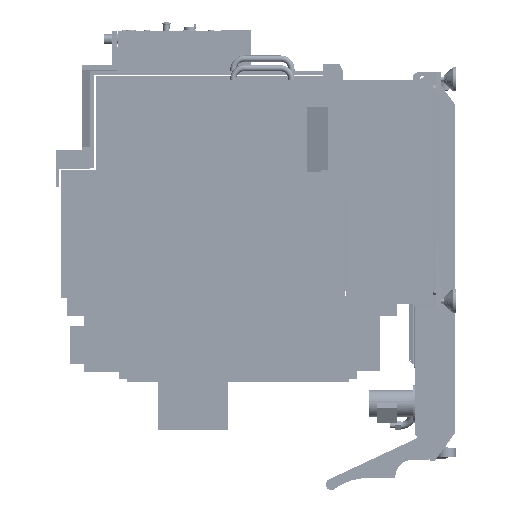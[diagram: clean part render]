
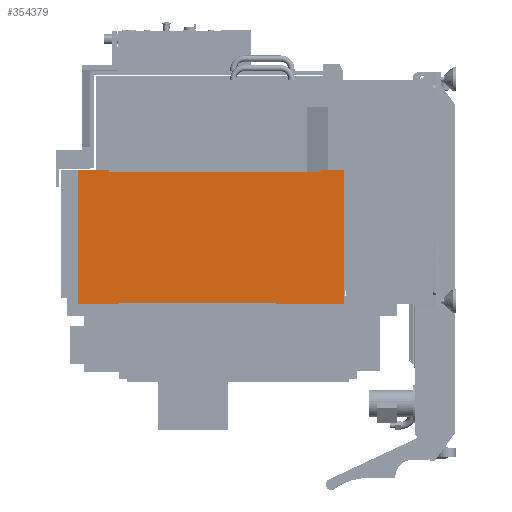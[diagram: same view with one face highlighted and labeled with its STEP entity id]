
A CAD part, left-side view. The second image highlights one B-rep face of the part: STEP entity #354379.
In plain terms, the highlighted planar face has unit normal (-1, 0, 0).
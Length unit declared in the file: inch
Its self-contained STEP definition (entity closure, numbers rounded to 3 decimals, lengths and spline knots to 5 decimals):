
#1688 = VECTOR ( 'NONE', #241285, 39.37008 ) ;
#1892 = CARTESIAN_POINT ( 'NONE',  ( -43.52964, 31.39127, -6.56243 ) ) ;
#7267 = CARTESIAN_POINT ( 'NONE',  ( -43.52964, 31.39127, -6.31707 ) ) ;
#8776 = CARTESIAN_POINT ( 'NONE',  ( -43.52964, 23.67831, -33.2571 ) ) ;
#10402 = ORIENTED_EDGE ( 'NONE', *, *, #301048, .F. ) ;
#16199 = EDGE_CURVE ( 'NONE', #225186, #35537, #307318, .T. ) ;
#21603 = CARTESIAN_POINT ( 'NONE',  ( -43.52964, -16.26878, -6.31707 ) ) ;
#26280 = EDGE_CURVE ( 'NONE', #290392, #322263, #298559, .T. ) ;
#33755 = ORIENTED_EDGE ( 'NONE', *, *, #16199, .T. ) ;
#34609 = VERTEX_POINT ( 'NONE', #401856 ) ;
#35537 = VERTEX_POINT ( 'NONE', #428219 ) ;
#38012 = CARTESIAN_POINT ( 'NONE',  ( -43.52964, 29.2254, -33.49602 ) ) ;
#45585 = VERTEX_POINT ( 'NONE', #1892 ) ;
#64214 = LINE ( 'NONE', #393886, #331404 ) ;
#72456 = CARTESIAN_POINT ( 'NONE',  ( -43.52964, -11.67459, -6.31707 ) ) ;
#72568 = VECTOR ( 'NONE', #154414, 39.37008 ) ;
#78003 = DIRECTION ( 'NONE',  ( 0., 0., 1. ) ) ;
#84188 = CARTESIAN_POINT ( 'NONE',  ( -43.52964, 37.6685, -6.31707 ) ) ;
#84958 = LINE ( 'NONE', #8776, #87952 ) ;
#87952 = VECTOR ( 'NONE', #342774, 39.37008 ) ;
#96211 = CARTESIAN_POINT ( 'NONE',  ( -43.52964, -16.26878, -33.325 ) ) ;
#100604 = VERTEX_POINT ( 'NONE', #428740 ) ;
#101273 = EDGE_LOOP ( 'NONE', ( #332365, #334436, #207612, #347724, #10402, #33755, #281677, #217793, #254346, #200921, #165679, #361491 ) ) ;
#112114 = LINE ( 'NONE', #248315, #415222 ) ;
#114388 = CARTESIAN_POINT ( 'NONE',  ( -43.52964, 0., 0. ) ) ;
#119312 = CARTESIAN_POINT ( 'NONE',  ( -43.52964, 37.6685, -7.65973 ) ) ;
#119543 = AXIS2_PLACEMENT_3D ( 'NONE', #114388, #248420, #204621 ) ;
#121762 = EDGE_CURVE ( 'NONE', #100604, #346526, #381782, .T. ) ;
#139693 = EDGE_CURVE ( 'NONE', #35537, #268143, #64214, .T. ) ;
#152283 = DIRECTION ( 'NONE',  ( 0., 1., 0. ) ) ;
#154414 = DIRECTION ( 'NONE',  ( 0., 0., -1. ) ) ;
#165679 = ORIENTED_EDGE ( 'NONE', *, *, #178992, .T. ) ;
#172196 = VECTOR ( 'NONE', #322370, 39.37008 ) ;
#175400 = LINE ( 'NONE', #410472, #291802 ) ;
#178992 = EDGE_CURVE ( 'NONE', #187089, #346278, #183105, .T. ) ;
#183105 = LINE ( 'NONE', #84188, #414623 ) ;
#187089 = VERTEX_POINT ( 'NONE', #21603 ) ;
#188278 = CARTESIAN_POINT ( 'NONE',  ( -43.52964, -16.26878, -33.325 ) ) ;
#193854 = DIRECTION ( 'NONE',  ( 0., -1., 0. ) ) ;
#196675 = VECTOR ( 'NONE', #312344, 39.37008 ) ;
#200921 = ORIENTED_EDGE ( 'NONE', *, *, #341382, .T. ) ;
#204621 = DIRECTION ( 'NONE',  ( 0., 0., 1. ) ) ;
#207612 = ORIENTED_EDGE ( 'NONE', *, *, #26280, .T. ) ;
#208824 = DIRECTION ( 'NONE',  ( 0., 0., -1. ) ) ;
#212047 = LINE ( 'NONE', #381203, #351782 ) ;
#217044 = DIRECTION ( 'NONE',  ( 0., 0., 1. ) ) ;
#217793 = ORIENTED_EDGE ( 'NONE', *, *, #264640, .T. ) ;
#225186 = VERTEX_POINT ( 'NONE', #38012 ) ;
#239120 = CARTESIAN_POINT ( 'NONE',  ( -43.52964, 37.6685, -6.31707 ) ) ;
#241285 = DIRECTION ( 'NONE',  ( 0., 1., 0. ) ) ;
#246652 = DIRECTION ( 'NONE',  ( 0., 1., 0. ) ) ;
#248315 = CARTESIAN_POINT ( 'NONE',  ( -43.52964, -11.67461, -21.45257 ) ) ;
#248420 = DIRECTION ( 'NONE',  ( -1., 0., 0. ) ) ;
#250972 = VECTOR ( 'NONE', #246652, 39.37008 ) ;
#254346 = ORIENTED_EDGE ( 'NONE', *, *, #121762, .T. ) ;
#259812 = CARTESIAN_POINT ( 'NONE',  ( -43.52964, 37.6685, -6.31707 ) ) ;
#264640 = EDGE_CURVE ( 'NONE', #268143, #100604, #84958, .T. ) ;
#268143 = VERTEX_POINT ( 'NONE', #280068 ) ;
#279634 = CARTESIAN_POINT ( 'NONE',  ( -43.52964, 28.06139, -33.49602 ) ) ;
#280068 = CARTESIAN_POINT ( 'NONE',  ( -43.52964, 23.67831, -33.2571 ) ) ;
#281677 = ORIENTED_EDGE ( 'NONE', *, *, #139693, .T. ) ;
#285548 = CARTESIAN_POINT ( 'NONE',  ( -43.52964, 37.6685, -33.49602 ) ) ;
#286902 = EDGE_CURVE ( 'NONE', #45585, #34609, #310213, .T. ) ;
#290392 = VERTEX_POINT ( 'NONE', #7267 ) ;
#291802 = VECTOR ( 'NONE', #309480, 39.37008 ) ;
#294515 = VERTEX_POINT ( 'NONE', #285548 ) ;
#298559 = LINE ( 'NONE', #239120, #1688 ) ;
#301048 = EDGE_CURVE ( 'NONE', #225186, #294515, #347718, .T. ) ;
#307318 = LINE ( 'NONE', #379693, #327065 ) ;
#309480 = DIRECTION ( 'NONE',  ( 0., 0., 1. ) ) ;
#310213 = LINE ( 'NONE', #411187, #196675 ) ;
#312344 = DIRECTION ( 'NONE',  ( 0., -1., 0. ) ) ;
#314372 = FACE_OUTER_BOUND ( 'NONE', #101273, .T. ) ;
#322263 = VERTEX_POINT ( 'NONE', #259812 ) ;
#322370 = DIRECTION ( 'NONE',  ( 0., -1., -0.001 ) ) ;
#327065 = VECTOR ( 'NONE', #217044, 39.37008 ) ;
#328562 = EDGE_CURVE ( 'NONE', #346278, #34609, #112114, .T. ) ;
#331404 = VECTOR ( 'NONE', #193854, 39.37008 ) ;
#332365 = ORIENTED_EDGE ( 'NONE', *, *, #286902, .F. ) ;
#334436 = ORIENTED_EDGE ( 'NONE', *, *, #379314, .T. ) ;
#341382 = EDGE_CURVE ( 'NONE', #346526, #187089, #175400, .T. ) ;
#342774 = DIRECTION ( 'NONE',  ( 0., 0., -1. ) ) ;
#346278 = VERTEX_POINT ( 'NONE', #72456 ) ;
#346526 = VERTEX_POINT ( 'NONE', #96211 ) ;
#347718 = LINE ( 'NONE', #279634, #250972 ) ;
#347724 = ORIENTED_EDGE ( 'NONE', *, *, #388672, .T. ) ;
#351782 = VECTOR ( 'NONE', #78003, 39.37008 ) ;
#354379 = ADVANCED_FACE ( 'NONE', ( #314372 ), #415363, .T. ) ;
#361491 = ORIENTED_EDGE ( 'NONE', *, *, #328562, .T. ) ;
#379314 = EDGE_CURVE ( 'NONE', #45585, #290392, #212047, .T. ) ;
#379693 = CARTESIAN_POINT ( 'NONE',  ( -43.52964, 29.2254, -41.88266 ) ) ;
#381203 = CARTESIAN_POINT ( 'NONE',  ( -43.52964, 31.39128, -0.00005 ) ) ;
#381782 = LINE ( 'NONE', #188278, #172196 ) ;
#388672 = EDGE_CURVE ( 'NONE', #322263, #294515, #391676, .T. ) ;
#391676 = LINE ( 'NONE', #119312, #72568 ) ;
#393886 = CARTESIAN_POINT ( 'NONE',  ( -43.52964, 23.67831, -33.2571 ) ) ;
#401856 = CARTESIAN_POINT ( 'NONE',  ( -43.52964, -11.67459, -6.56237 ) ) ;
#410472 = CARTESIAN_POINT ( 'NONE',  ( -43.52964, -16.26878, -33.325 ) ) ;
#411187 = CARTESIAN_POINT ( 'NONE',  ( -43.52964, -0.00001, -6.56238 ) ) ;
#414623 = VECTOR ( 'NONE', #152283, 39.37008 ) ;
#415222 = VECTOR ( 'NONE', #208824, 39.37008 ) ;
#415363 = PLANE ( 'NONE',  #119543 ) ;
#428219 = CARTESIAN_POINT ( 'NONE',  ( -43.52964, 29.2254, -33.2571 ) ) ;
#428740 = CARTESIAN_POINT ( 'NONE',  ( -43.52964, 23.67831, -33.26802 ) ) ;
